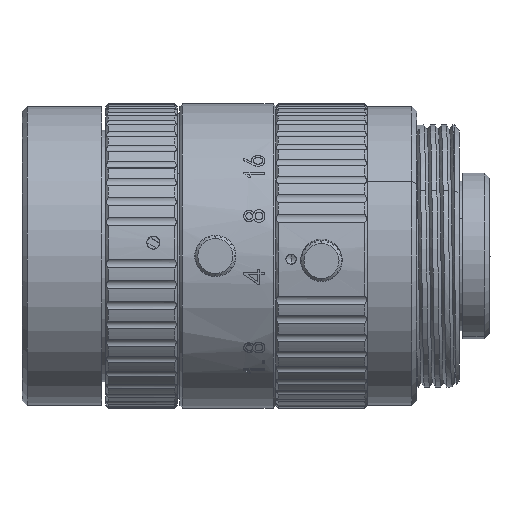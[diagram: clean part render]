
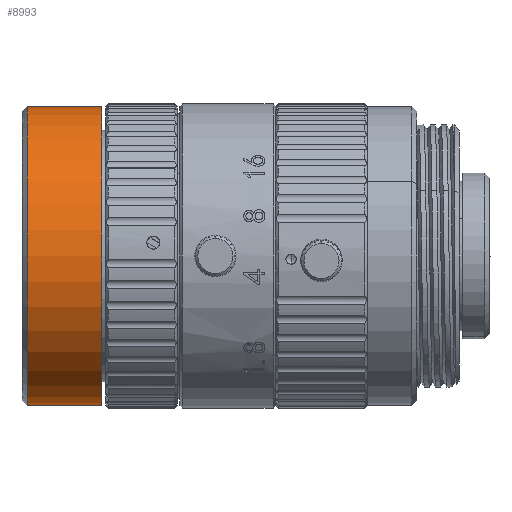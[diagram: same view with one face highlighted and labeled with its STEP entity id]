
A CAD part, front view. The second image highlights one B-rep face of the part: STEP entity #8993.
In plain terms, the highlighted cylindrical face has radius 14.5 mm (diameter 29 mm), a partial arc.
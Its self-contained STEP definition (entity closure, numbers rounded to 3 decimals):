
#2221 = CARTESIAN_POINT ( 'NONE',  ( -43.412, -0.015, -14.5 ) ) ;
#2921 = EDGE_LOOP ( 'NONE', ( #9386, #20235, #9989, #42208 ) ) ;
#3327 = FACE_OUTER_BOUND ( 'NONE', #2921, .T. ) ;
#4477 = CARTESIAN_POINT ( 'NONE',  ( -41.271, -0.015, -14.5 ) ) ;
#4836 = AXIS2_PLACEMENT_3D ( 'NONE', #16455, #16891, #12517 ) ;
#4856 = LINE ( 'NONE', #2221, #41511 ) ;
#5308 = DIRECTION ( 'NONE',  ( 0., 0.001, 1. ) ) ;
#5761 = VERTEX_POINT ( 'NONE', #32436 ) ;
#6547 = CARTESIAN_POINT ( 'NONE',  ( -34.035, -0.015, -14.5 ) ) ;
#7367 = CIRCLE ( 'NONE', #10117, 14.5 ) ;
#8078 = CARTESIAN_POINT ( 'NONE',  ( -34.035, 0., 0. ) ) ;
#8993 = ADVANCED_FACE ( 'NONE', ( #3327 ), #22775, .T. ) ;
#9386 = ORIENTED_EDGE ( 'NONE', *, *, #40121, .F. ) ;
#9443 = DIRECTION ( 'NONE',  ( -1., 0., 0. ) ) ;
#9989 = ORIENTED_EDGE ( 'NONE', *, *, #12079, .T. ) ;
#10117 = AXIS2_PLACEMENT_3D ( 'NONE', #29546, #9443, #5308 ) ;
#11152 = DIRECTION ( 'NONE',  ( 0., 0.001, 1. ) ) ;
#11847 = DIRECTION ( 'NONE',  ( -1., 0., 0. ) ) ;
#12079 = EDGE_CURVE ( 'NONE', #31782, #5761, #29904, .T. ) ;
#12358 = AXIS2_PLACEMENT_3D ( 'NONE', #8078, #14856, #11152 ) ;
#12517 = DIRECTION ( 'NONE',  ( 0., 0.001, 1. ) ) ;
#12649 = CARTESIAN_POINT ( 'NONE',  ( -43.412, 0.015, 14.5 ) ) ;
#12928 = VECTOR ( 'NONE', #26632, 1000. ) ;
#14856 = DIRECTION ( 'NONE',  ( -1., 0., 0. ) ) ;
#16455 = CARTESIAN_POINT ( 'NONE',  ( -43.412, 0., 0. ) ) ;
#16891 = DIRECTION ( 'NONE',  ( -1., 0., 0. ) ) ;
#20235 = ORIENTED_EDGE ( 'NONE', *, *, #31320, .T. ) ;
#22775 = CYLINDRICAL_SURFACE ( 'NONE', #4836, 14.5 ) ;
#26632 = DIRECTION ( 'NONE',  ( -1., 0., 0. ) ) ;
#27446 = CARTESIAN_POINT ( 'NONE',  ( -34.035, 0.015, 14.5 ) ) ;
#29258 = VERTEX_POINT ( 'NONE', #4477 ) ;
#29546 = CARTESIAN_POINT ( 'NONE',  ( -41.271, 0., 0. ) ) ;
#29904 = LINE ( 'NONE', #12649, #12928 ) ;
#31198 = CIRCLE ( 'NONE', #12358, 14.5 ) ;
#31320 = EDGE_CURVE ( 'NONE', #42311, #31782, #31198, .T. ) ;
#31782 = VERTEX_POINT ( 'NONE', #27446 ) ;
#32436 = CARTESIAN_POINT ( 'NONE',  ( -41.271, 0.015, 14.5 ) ) ;
#40121 = EDGE_CURVE ( 'NONE', #42311, #29258, #4856, .T. ) ;
#41511 = VECTOR ( 'NONE', #11847, 1000. ) ;
#41841 = EDGE_CURVE ( 'NONE', #29258, #5761, #7367, .T. ) ;
#42208 = ORIENTED_EDGE ( 'NONE', *, *, #41841, .F. ) ;
#42311 = VERTEX_POINT ( 'NONE', #6547 ) ;
